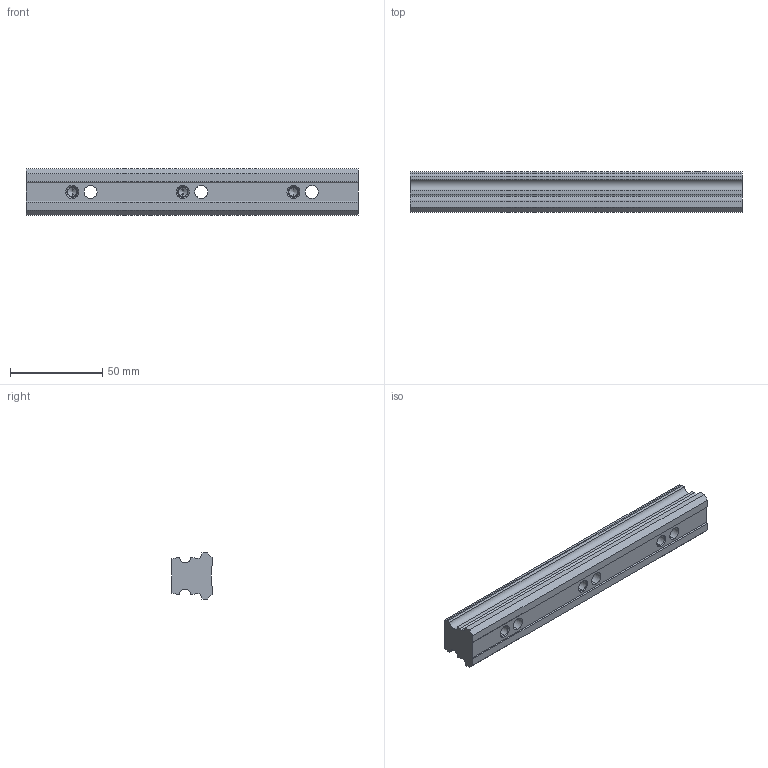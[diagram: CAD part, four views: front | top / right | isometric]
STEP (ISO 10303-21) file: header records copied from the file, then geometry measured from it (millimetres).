
FILE_DESCRIPTION (( 'STEP AP203' ), '1' );
FILE_NAME ('Default.step', '2023-08-06T10:31:48', ( '' ), ( '' ), 'SwSTEP 2.0', 'SolidWorks 2019', '' );
FILE_SCHEMA (( 'CONFIG_CONTROL_DESIGN' ));
Length unit declared in the file: millimetre
Products named in the file (1): Default
Bounding box: 180 x 21.8 x 25 mm (x, y, z)
Volume: 70890.8 mm3; surface area: 20228.8 mm2
Topology: 1 solids, 1 shells, 71 faces, 177 edges, 111 vertices
Faces by surface type: plane 32, cylinder 27, cone 12
Entity records: 2162 total; most frequent: DIRECTION 375, CARTESIAN_POINT 354, ORIENTED_EDGE 342, EDGE_CURVE 171, AXIS2_PLACEMENT_3D 132, LINE 111, VERTEX_POINT 111, VECTOR 111
